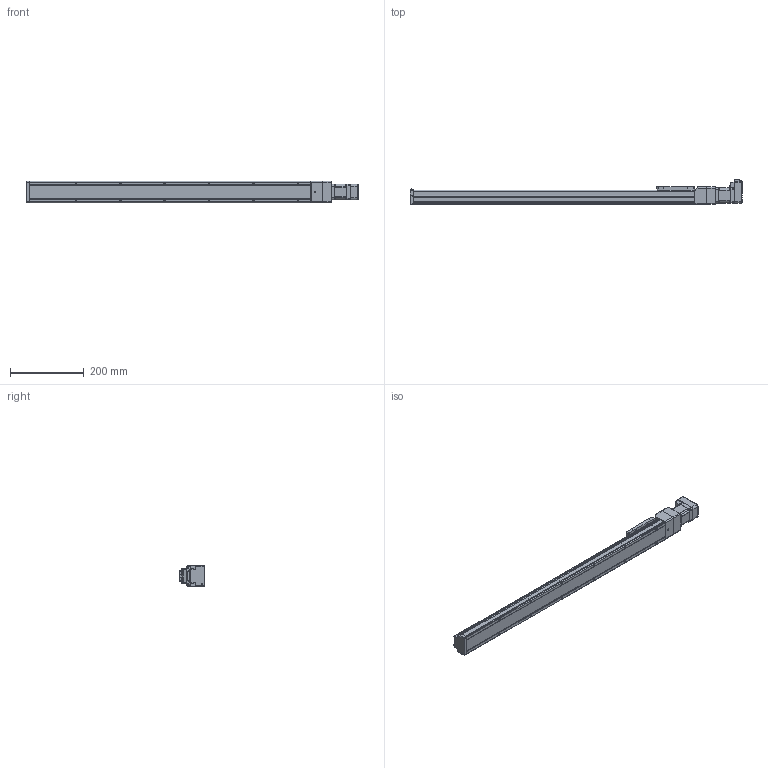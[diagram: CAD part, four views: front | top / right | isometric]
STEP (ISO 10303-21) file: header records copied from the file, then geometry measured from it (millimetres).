
FILE_DESCRIPTION (( 'STEP AP214' ), '1' );
FILE_NAME ('LEFS3(+)-25NM1Œû-650-17L.STEP', '2023-05-31T02:36:35', ( '' ), ( '' ), 'SwSTEP 2.0', 'SolidWorks 2019', '' );
FILE_SCHEMA (( 'AUTOMOTIVE_DESIGN' ));
Length unit declared in the file: millimetre
Products named in the file (5): LEFS3(+)-25NM1口-650-17L; LEFS3(+)-25NM1_MOTOR Flange; LEFS3(+)-25NM1仩_BODY_650; LEFS3(+)-25NM1_TABLE; CM3(+)-17L50A
Assembly tree (4 placements, depth 2):
  LEFS3(+)-25NM1口-650-17L
    LEFS3(+)-25NM1仩_BODY_650
    LEFS3(+)-25NM1_TABLE
    LEFS3(+)-25NM1_MOTOR Flange
    CM3(+)-17L50A
Bounding box: 897.3 x 66.75 x 58 mm (x, y, z)
Volume: 1751571.9 mm3; surface area: 218507.1 mm2
Topology: 5 solids, 5 shells, 1003 faces, 2590 edges, 1632 vertices
Faces by surface type: plane 513, cylinder 318, cone 83, torus 39, bspline 29, sphere 21
Entity records: 40676 total; most frequent: CARTESIAN_POINT 7416, ORIENTED_EDGE 5118, DIRECTION 4938, EDGE_CURVE 2559, AXIS2_PLACEMENT_3D 1666, VERTEX_POINT 1632, LINE 1606, VECTOR 1606
